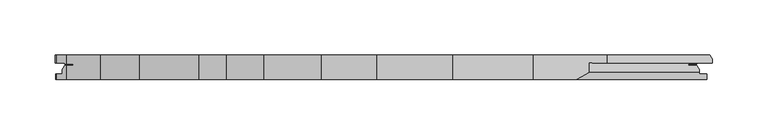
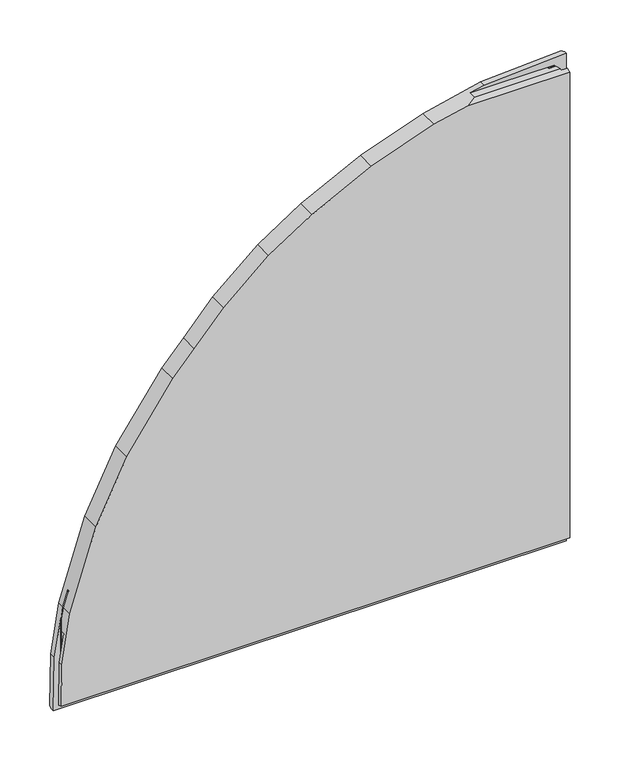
"""IFC4 building model written with IfcOpenShell, lengths in millimetres: plate geometry, Rockfon X CORNER : Rockfon Blanka X."""

from ifc_helpers import new_model, si_unit, origin, place, context, project, spatial, faceted_brep, source, transform, mapped, element, save


def plate_c92e4635(model_context):
    return source(origin(), model_context, "Body", "Brep", [
        faceted_brep([(297.7993463, 22.0, 2.0258082), (-294.4016084, 22.0, 2.0258082), (-293.1082793, 22.0, 64.4345762), (-283.9857089, 22.0, 124.326837), (-253.9139297, 22.0, 220.1702213), (-217.9274558, 22.0, 293.9209824), (-164.5745719, 22.0, 370.2745314), (-139.534475, 22.0, 398.4408904), (-105.4193815, 22.0, 436.8152617), (-53.8058803, 22.0, 482.3705426), (-3.6976394, 22.0, 515.3346858), (65.4990865, 22.0, 550.3915651), (137.7998006, 22.0, 576.146349), (204.9631249, 22.0, 591.3509948), (297.7993463, 22.0, 597.3099247), (294.9993463, 0.0, 14.84), (294.9993463, 0.0, 585.16), (177.6157079, 0.0, 585.16), (137.7998006, 0.0, 576.146349), (65.4990865, 0.0, 550.3915651), (-3.6976394, 0.0, 515.3346858), (-53.8058803, 0.0, 482.3705426), (-105.4193815, 0.0, 436.8152617), (-139.534475, 0.0, 398.4408904), (-164.5745719, 0.0, 370.2745314), (-217.9274558, 0.0, 293.9209824), (-253.9139297, 0.0, 220.1702213), (-283.9857089, 0.0, 124.326837), (-293.1082793, 0.0, 64.4345762), (-294.1360533, 0.0, 14.84), (-287.9500002, 5.0, 12.8198689), (-294.1779175, 5.0, 12.8198689), (-293.1082793, 5.0, 64.4345762), (-287.9500002, 5.0, 98.300141), (294.9993463, 5.0, 587.1801311), (287.9493463, 5.0, 587.1801311), (287.9493463, 6.3114715, 587.71), (188.8797964, 6.3114715, 587.71), (287.9493463, 9.0, 587.71), (285.9493463, 12.5, 587.71), (278.0493463, 12.5, 587.71), (278.0493463, 14.0, 587.71), (286.0493463, 14.0, 587.71), (286.0493463, 15.0, 587.71), (188.8797964, 15.0, 587.71), (-286.0500002, 15.0, 12.29), (286.0493463, 15.0, 12.29), (286.0493463, 14.0, 12.29), (278.0493463, 14.0, 12.29), (278.0493463, 12.5, 12.29), (285.9493463, 12.5, 12.29), (287.9493463, 9.0, 12.29), (287.9493463, 6.3114715, 12.29), (-287.9500002, 6.3114715, 12.29), (-287.9500002, 9.0, 12.29), (-285.9500002, 12.5, 12.29), (-278.0500002, 12.5, 12.29), (-278.0500002, 14.0, 12.29), (-286.0500002, 14.0, 12.29), (287.9493463, 5.0, 12.8198689), (294.9993463, 5.0, 12.8198689), (299.6414599, 18.8549279, 0.21), (-294.4392383, 18.8549279, 0.21), (299.8493463, 18.5, 0.21), (299.8493463, 15.0, 0.21), (-294.4392383, 15.0, 0.21), (-286.0500002, 15.0, 110.7741796), (-293.1082793, 15.0, 64.4345762), (299.8493463, 15.0, 597.4415092), (204.9631249, 15.0, 591.3509948), (-286.0500002, 14.0, 110.7741796), (-278.0500002, 14.0, 143.2448534), (-283.9857089, 14.0, 124.326837), (-278.0500002, 12.5, 143.2448534), (-285.9500002, 12.5, 111.4307079), (-283.9857089, 12.5, 124.326837), (-287.9500002, 9.0, 98.300141), (299.8493463, 18.5, 597.4415092)], [[[0, 1, 2, 3, 4, 5, 6, 7, 8, 9, 10, 11, 12, 13, 14]], [[15, 16, 17, 18, 19, 20, 21, 22, 23, 24, 25, 26, 27, 28, 29]], [[30, 31, 32, 33]], [[16, 34, 35, 36, 37, 17]], [[36, 38, 39, 40, 41, 42, 43, 44, 37]], [[45, 46, 47, 48, 49, 50, 51, 52, 53, 54, 55, 56, 57, 58]], [[53, 52, 59, 60, 15, 29, 31, 30]], [[0, 61, 62, 1]], [[63, 64, 65, 62, 61]], [[46, 45, 66, 67, 65, 64, 68, 69, 44, 43]], [[45, 58, 70, 66]], [[58, 57, 71, 72, 70]], [[57, 56, 73, 71]], [[56, 55, 74, 75, 73]], [[55, 54, 76, 74]], [[54, 53, 30, 33, 76]], [[15, 60, 34, 16]], [[60, 59, 35, 34]], [[52, 51, 38, 36, 35, 59]], [[51, 50, 39, 38]], [[50, 49, 40, 39]], [[49, 48, 41, 40]], [[48, 47, 42, 41]], [[47, 46, 43, 42]], [[64, 63, 77, 68]], [[61, 0, 14, 77, 63]], [[28, 32, 31, 29]], [[67, 2, 1, 62, 65]], [[3, 72, 71, 73, 75, 27, 26, 4]], [[5, 25, 24, 6]], [[8, 22, 21, 9]], [[11, 19, 18, 12]], [[13, 69, 68, 77, 14]], [[72, 3, 2, 67, 66, 70]], [[27, 75, 74, 76, 33, 32, 28]], [[25, 5, 4, 26]], [[22, 8, 7, 23]], [[9, 21, 20, 10]], [[19, 11, 10, 20]], [[69, 13, 12, 18, 17, 37, 44]], [[23, 7, 6, 24]]]),
    ])


if __name__ == "__main__":
    model = new_model("IFC4")
    model_context = context("Model", 3, world=origin())
    ifc_project = project(units=[si_unit("LENGTHUNIT", "METRE", prefix="MILLI")], contexts=[model_context])
    site = spatial("IfcSite", under=ifc_project)
    building = spatial("IfcBuilding", under=site)
    placement = place(None, origin())
    plate_shape = plate_c92e4635(model_context)
    element("IfcPlate", 1, ObjectType="Rockfon X CORNER : Rockfon Blanka X", at=placement, inside=building, context=model_context, shape_type="MappedRepresentation", body=[
        mapped(plate_shape, transform((0.0, 0.0, 0.0), x_axis=(1.0, 0.0, 0.0), y_axis=(0.0, 1.0, 0.0), z_axis=(0.0, 0.0, 1.0))),
    ])
    save(model, "model.ifc")
